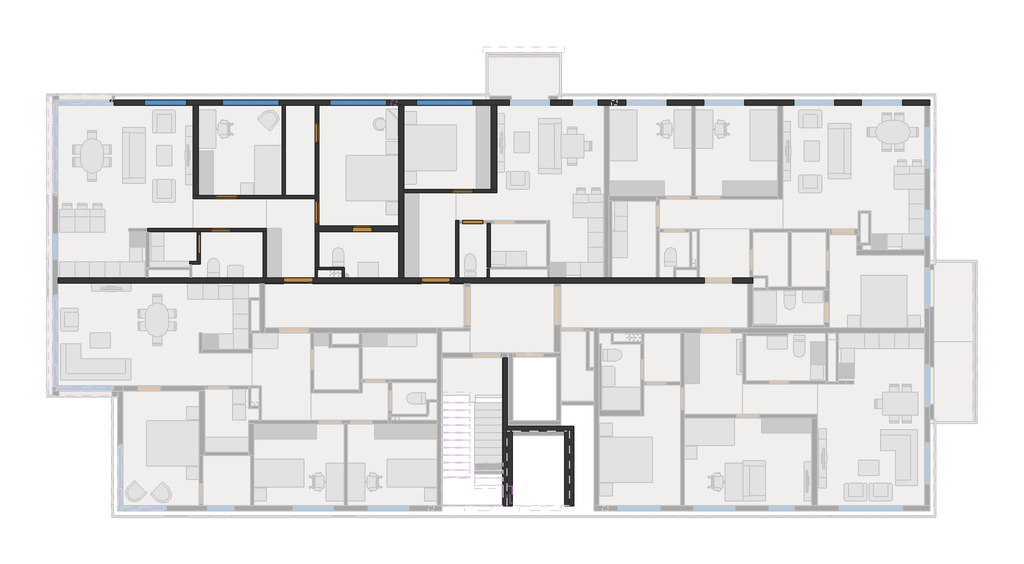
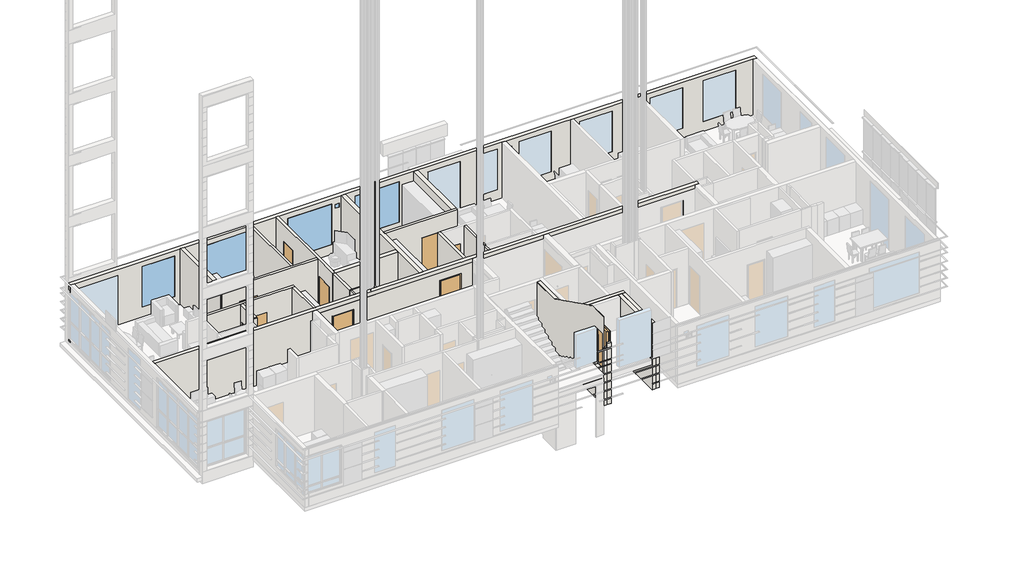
# One storey, part 7 of 14: 28 walls, 22 doors, 5 windows, 3 members, 2 plates.
"""IFC4 building model written with IfcOpenShell, lengths in millimetres."""

from ifc_helpers import new_model, si_unit, frame, origin, place, context, project, spatial, polyline, outline, extrude, faceted_brep, transform, mapped, element, save
from components import door_1f93f5fc, door_5594d525, door_3b0bb860, door_b8e875bd, door_c12ba408, door_87123fce, door_73803761, door_3a59e23d, door_1132ae02, door_6199b08a, door_fe42e1f0, door_2b45e898, door_e21d8083, rectangular_mullion_150x50_b8963a12, rectangular_mullion_150x50_a91aaa2b, rectangular_mullion_150x50_60451361, system_panel_b4577e30, system_panel_097f168f, window_786e5193, window_6c497e1b, default_0834c612

model = new_model("IFC4")

# Units and contexts
model_context = context("Model", 3, world=origin())
ifc_project = project(units=[si_unit("LENGTHUNIT", "METRE", prefix="MILLI")], contexts=[model_context])

# Site, building, storey
site = spatial("IfcSite", under=ifc_project)
building = spatial("IfcBuilding", under=site)
storey = spatial("IfcBuildingStorey", under=building, Name="03_+7,700_Ж", Elevation=4500.0)

# Doors
placement = place(None, origin())
door_shape = door_1f93f5fc(model_context)
element("IfcDoor", 1, ObjectType="Dr_Проем-Простой : ДВ", at=placement, inside=storey, context=model_context, shape_type="MappedRepresentation", body=[
    mapped(door_shape, transform((141870.3230165, 120599.9999987, 4500.0), x_axis=(-1.0, 0.0, 0.0), y_axis=(0.0, -1.0, 0.0), z_axis=(0.0, 0.0, 1.0))),
])
element("IfcDoor", 2, ObjectType="Dr_Проем-Простой : ДВ", at=placement, inside=storey, context=model_context, shape_type="MappedRepresentation", body=[
    mapped(door_shape, transform((136385.3230165, 120599.9999987, 4500.0), x_axis=(-1.0, 0.0, 0.0), y_axis=(0.0, -1.0, 0.0), z_axis=(0.0, 0.0, 1.0))),
])
door_2_shape = door_5594d525(model_context)
element("IfcDoor", 3, ObjectType="Dr_Проем-Простой : ДВ", at=placement, inside=storey, context=model_context, shape_type="MappedRepresentation", body=[
    mapped(door_2_shape, transform((144625.0000001, 112255.3230151, 6150.0), x_axis=(0.0, -1.0, 0.0), y_axis=(1.0, 0.0, 0.0), z_axis=(0.0, 0.0, 1.0))),
])
door_3_shape = door_3b0bb860(model_context)
element("IfcDoor", 4, ObjectType="Dr_Проем-Простой : ДВ", at=placement, inside=storey, context=model_context, shape_type="MappedRepresentation", body=[
    mapped(door_3_shape, transform((132874.6769838, 122612.4999987, 4500.0), x_axis=(1.0, 0.0, 0.0), y_axis=(0.0, 1.0, 0.0), z_axis=(0.0, 0.0, 1.0))),
])
element("IfcDoor", 5, ObjectType="Dr_Проем-Простой : ДВ", at=placement, inside=storey, context=model_context, shape_type="MappedRepresentation", body=[
    mapped(door_3_shape, transform((142944.1769838, 122937.4999987, 4500.0), x_axis=(1.0, 0.0, 0.0), y_axis=(0.0, 1.0, 0.0), z_axis=(0.0, 0.0, 1.0))),
])
door_4_shape = door_b8e875bd(model_context)
element("IfcDoor", 6, ObjectType="Dr_Проем-Простой : ДВ", at=placement, inside=storey, context=model_context, shape_type="MappedRepresentation", body=[
    mapped(door_4_shape, transform((133525.5824295, 123937.4999987, 4500.0), x_axis=(-1.0, 0.0, 0.0), y_axis=(0.0, -1.0, 0.0), z_axis=(0.0, 0.0, 1.0))),
])
element("IfcDoor", 7, ObjectType="Dr_Проем-Простой : ДВ", at=placement, inside=storey, context=model_context, shape_type="MappedRepresentation", body=[
    mapped(door_4_shape, transform((136927.5000001, 123530.323015, 4500.0), x_axis=(0.0, -1.0, 0.0), y_axis=(1.0, 0.0, 0.0), z_axis=(0.0, 0.0, 1.0))),
])
element("IfcDoor", 8, ObjectType="Dr_Проем-Простой : ДВ", at=placement, inside=storey, context=model_context, shape_type="MappedRepresentation", body=[
    mapped(door_4_shape, transform((142534.6769838, 124167.4999987, 4500.0), x_axis=(1.0, 0.0, 0.0), y_axis=(0.0, 1.0, 0.0), z_axis=(0.0, 0.0, 1.0))),
])
element("IfcDoor", 9, ObjectType="Dr_Проем-Простой : ДВ", at=placement, inside=storey, context=model_context, shape_type="MappedRepresentation", body=[
    mapped(door_3_shape, transform((136927.5000001, 126705.323015, 4500.0), x_axis=(0.0, -1.0, 0.0), y_axis=(1.0, 0.0, 0.0), z_axis=(0.0, 0.0, 1.0))),
])
door_5_shape = door_c12ba408(model_context)
element("IfcDoor", 10, ObjectType="Dr_Проем-Простой : ДВ", at=placement, inside=storey, context=model_context, shape_type="MappedRepresentation", body=[
    mapped(door_5_shape, transform((138519.6769838, 122669.9999987, 4500.0), x_axis=(1.0, 0.0, 0.0), y_axis=(0.0, 1.0, 0.0), z_axis=(0.0, 0.0, 1.0))),
])
element("IfcDoor", 11, ObjectType="Dr_Проем-Простой : ДВ", at=placement, inside=storey, context=model_context, shape_type="MappedRepresentation", body=[
    mapped(door_3_shape, transform((132202.5000001, 121844.6769824, 4500.0), x_axis=(0.0, 1.0, 0.0), y_axis=(-1.0, 0.0, 0.0), z_axis=(0.0, 0.0, 1.0))),
])
door_6_shape = door_87123fce(model_context)
element("IfcDoor", 12, ObjectType="Dr_Дверь_v2.1 : ДМ Мд1 Зв3 Оп Г Брг 21-9 Л", at=placement, inside=storey, context=model_context, shape_type="MappedRepresentation", body=[
    mapped(door_6_shape, transform((142615.0000001, 124167.4999987, 4500.0), x_axis=(1.0, 0.0, 0.0), y_axis=(0.0, 1.0, 0.0), z_axis=(0.0, 0.0, 1.0))),
])
door_7_shape = door_73803761(model_context)
element("IfcDoor", 13, ObjectType="Dr_Дверь_v2.1 : ДВПС Оп Г 24-11,5 Л EI30", at=placement, inside=storey, context=model_context, shape_type="MappedRepresentation", body=[
    mapped(door_7_shape, transform((141790.0000001, 120599.9999987, 4500.0), x_axis=(-1.0, 0.0, 0.0), y_axis=(0.0, -1.0, 0.0), z_axis=(0.0, 0.0, 1.0))),
])
door_8_shape = door_3a59e23d(model_context)
element("IfcDoor", 14, ObjectType="Dr_Дверь_v2.1 : ДВПС Оп Г 24-11,5 EI30", at=placement, inside=storey, context=model_context, shape_type="MappedRepresentation", body=[
    mapped(door_8_shape, transform((136305.0000001, 120599.9999987, 4500.0), x_axis=(-1.0, 0.0, 0.0), y_axis=(0.0, -1.0, 0.0), z_axis=(0.0, 0.0, 1.0))),
])
door_9_shape = door_1132ae02(model_context)
element("IfcDoor", 15, ObjectType="Dr_Дверь_v2.1 : ДС Мд1 Оп Г Брг 21-8", at=placement, inside=storey, context=model_context, shape_type="MappedRepresentation", body=[
    mapped(door_9_shape, transform((132955.0000001, 122612.4999987, 4500.0), x_axis=(1.0, 0.0, 0.0), y_axis=(0.0, 1.0, 0.0), z_axis=(0.0, 0.0, 1.0))),
])
door_10_shape = door_6199b08a(model_context)
element("IfcDoor", 16, ObjectType="Dr_Дверь_v2.1 : ДМ Мд1 Зв3 Оп Г Брг 21-9", at=placement, inside=storey, context=model_context, shape_type="MappedRepresentation", body=[
    mapped(door_10_shape, transform((133445.2594131, 123937.4999987, 4500.0), x_axis=(-1.0, 0.0, 0.0), y_axis=(0.0, -1.0, 0.0), z_axis=(0.0, 0.0, 1.0))),
])
element("IfcDoor", 17, ObjectType="Dr_Дверь_v2.1 : ДМ Мд1 Зв3 Оп Г Брг 21-9 Л", at=placement, inside=storey, context=model_context, shape_type="MappedRepresentation", body=[
    mapped(door_6_shape, transform((136927.5000001, 123449.9999987, 4500.0), x_axis=(0.0, -1.0, 0.0), y_axis=(1.0, 0.0, 0.0), z_axis=(0.0, 0.0, 1.0))),
])
element("IfcDoor", 18, ObjectType="Dr_Дверь_v2.1 : ДС Мд1 Оп Г Брг 21-8", at=placement, inside=storey, context=model_context, shape_type="MappedRepresentation", body=[
    mapped(door_9_shape, transform((143024.5000001, 122937.4999987, 4500.0), x_axis=(1.0, 0.0, 0.0), y_axis=(0.0, 1.0, 0.0), z_axis=(0.0, 0.0, 1.0))),
])
element("IfcDoor", 19, ObjectType="Dr_Дверь_v2.1 : ДМ Мд1 Оп Г Брг 21-8", at=placement, inside=storey, context=model_context, shape_type="MappedRepresentation", body=[
    mapped(door_9_shape, transform((136927.5000001, 126624.9999987, 4500.0), x_axis=(0.0, -1.0, 0.0), y_axis=(1.0, 0.0, 0.0), z_axis=(0.0, 0.0, 1.0))),
])
door_11_shape = door_fe42e1f0(model_context)
element("IfcDoor", 20, ObjectType="Dr_Дверь_v2.1 : ДНСГУТД Оп Прг 21-7 Тех EIS60", at=placement, inside=storey, context=model_context, shape_type="MappedRepresentation", body=[
    mapped(door_11_shape, transform((144625.0000001, 112174.9999987, 6150.0), x_axis=(0.0, -1.0, 0.0), y_axis=(1.0, 0.0, 0.0), z_axis=(0.0, 0.0, 1.0))),
])
door_12_shape = door_2b45e898(model_context)
element("IfcDoor", 21, ObjectType="Dr_Дверь_v2.1 : ДС Мд1 Оп Г Брг 21-8 Л", at=placement, inside=storey, context=model_context, shape_type="MappedRepresentation", body=[
    mapped(door_12_shape, transform((138600.0000001, 122669.9999987, 4500.0), x_axis=(1.0, 0.0, 0.0), y_axis=(0.0, 1.0, 0.0), z_axis=(0.0, 0.0, 1.0))),
])
door_13_shape = door_e21d8083(model_context)
element("IfcDoor", 22, ObjectType="Dr_Дверь_v2.1 : ДС Мд1 Оп Г Брг 21-8 Л", at=placement, inside=storey, context=model_context, shape_type="MappedRepresentation", body=[
    mapped(door_13_shape, transform((132202.5000001, 121924.9999987, 4500.0), x_axis=(0.0, 1.0, 0.0), y_axis=(-1.0, 0.0, 0.0), z_axis=(0.0, 0.0, 1.0))),
])

# Members
rectangular_mullion_150x50_shape = rectangular_mullion_150x50_b8963a12(model_context)
element("IfcMember", 23, ObjectType="Rectangular Mullion : 150x50", at=placement, inside=storey, context=model_context, shape_type="MappedRepresentation", body=[
    mapped(rectangular_mullion_150x50_shape, transform((128730.0000001, 127724.9999987, 7100.0), x_axis=(1.0, 0.0, 0.0), y_axis=(0.0, 1.0, 0.0), z_axis=(0.0, 0.0, 1.0))),
])
rectangular_mullion_150x50_2_shape = rectangular_mullion_150x50_a91aaa2b(model_context)
element("IfcMember", 24, ObjectType="Rectangular Mullion : 150x50", at=placement, inside=storey, context=model_context, shape_type="MappedRepresentation", body=[
    mapped(rectangular_mullion_150x50_2_shape, transform((128730.0000001, 127724.9999987, 5475.0), x_axis=(1.0, 0.0, 0.0), y_axis=(0.0, 1.0, 0.0), z_axis=(0.0, 0.0, 1.0))),
])
rectangular_mullion_150x50_3_shape = rectangular_mullion_150x50_60451361(model_context)
element("IfcMember", 25, ObjectType="Rectangular Mullion : 150x50", at=placement, inside=storey, context=model_context, shape_type="MappedRepresentation", body=[
    mapped(rectangular_mullion_150x50_3_shape, transform((128730.0000001, 127724.9999987, 4500.0), x_axis=(0.0, 0.0, -1.0), y_axis=(0.0, 1.0, 0.0), z_axis=(1.0, 0.0, 0.0))),
])

# Plates
system_panel_shape = system_panel_b4577e30(model_context)
element("IfcPlate", 26, ObjectType="System Panel : стекло_смещение_0", at=placement, inside=storey, context=model_context, shape_type="MappedRepresentation", body=[
    mapped(system_panel_shape, transform((128155.0000001, 127724.9999987, 4550.0), x_axis=(-1.0, 0.0, 0.0), y_axis=(0.0, -1.0, 0.0), z_axis=(0.0, 0.0, 1.0))),
])
system_panel_2_shape = system_panel_097f168f(model_context)
element("IfcPlate", 27, ObjectType="System Panel : стекло_смещение_0", at=placement, inside=storey, context=model_context, shape_type="MappedRepresentation", body=[
    mapped(system_panel_2_shape, transform((128155.0000001, 127724.9999987, 5500.0), x_axis=(-1.0, 0.0, 0.0), y_axis=(0.0, -1.0, 0.0), z_axis=(0.0, 0.0, 1.0))),
])

# Walls
element("IfcWall", 28, ObjectType="BW_SUB_GKL_INT_125_Тип П9.2-------", at=placement, inside=storey, context=model_context, shape_type="SweptSolid", body=[
    extrude(outline(polyline([(136990.0000001, 122564.9999987), (136990.0000001, 121129.9999987), (136865.0000001, 121129.9999987), (136865.0000001, 122564.9999987), (136990.0000001, 122564.9999987)])), frame((0.0, 0.0, 4480.0), z_axis=(0.0, 0.0, 1.0), x_axis=(1.0, 0.0, 0.0)), (0.0, 0.0, 1.0), 3020.0),
])
element("IfcWall", 29, ObjectType="BW_SUB_GKL_INT_125_Тип П9.1-------", at=placement, inside=storey, context=model_context, shape_type="Brep", body=[
    faceted_brep([(136865.0000001, 123874.9999987, 7500.0), (131980.0000001, 123874.9999987, 7500.0), (131980.0000001, 123874.9999987, 4480.0), (132870.2594131, 123874.9999987, 4480.0), (132870.2594131, 123874.9999987, 6600.0), (133770.2594131, 123874.9999987, 6600.0), (133770.2594131, 123874.9999987, 4480.0), (136865.0000001, 123874.9999987, 4480.0), (131980.0000001, 123999.9999987, 7500.0), (132190.0000001, 123999.9999987, 7500.0), (135540.0000001, 123999.9999987, 7500.0), (135665.0000001, 123999.9999987, 7500.0), (136865.0000001, 123999.9999987, 7500.0), (136865.0000001, 123999.9999987, 4480.0), (135665.0000001, 123999.9999987, 4480.0), (135540.0000001, 123999.9999987, 4480.0), (133770.2594131, 123999.9999987, 4480.0), (133770.2594131, 123999.9999987, 6600.0), (132870.2594131, 123999.9999987, 6600.0), (132870.2594131, 123999.9999987, 4480.0), (132190.0000001, 123999.9999987, 4480.0), (131980.0000001, 123999.9999987, 4480.0)], [[[0, 1, 2, 3, 4, 5, 6, 7]], [[8, 9, 10, 11, 12, 13, 14, 15, 16, 17, 18, 19, 20, 21]], [[2, 21, 20, 19, 3]], [[13, 7, 6, 16, 15, 14]], [[1, 0, 12, 11, 10, 9, 8]], [[5, 17, 16, 6]], [[18, 4, 3, 19]], [[17, 5, 4, 18]], [[2, 1, 8, 21]], [[0, 7, 13, 12]]]),
])
element("IfcWall", 30, ObjectType="BW_SUB_GKL_INT_210_Тип П10.2-------", at=placement, inside=storey, context=model_context, shape_type="SweptSolid", body=[
    extrude(outline(polyline([(7500.0, 140190.0000001), (7500.0, 136990.0000001), (4480.0, 136990.0000001), (4480.0, 138325.0000001), (6600.0, 138325.0000001), (6600.0, 139125.0000001), (4480.0, 139125.0000001), (4480.0, 140190.0000001), (7500.0, 140190.0000001)])), frame((0.0, 122564.9999987, 0.0), z_axis=(0.0, 1.0, 0.0), x_axis=(0.0, 0.0, 1.0)), (0.0, 0.0, 1.0), 210.0),
])
element("IfcWall", 31, ObjectType="BW_SUB_GKL_INT_125_Тип П9.2-------", at=placement, inside=storey, context=model_context, shape_type="SweptSolid", body=[
    extrude(outline(polyline([(134780.0000001, 120699.9999987), (134780.0000001, 122549.9999987), (134905.0000001, 122549.9999987), (134905.0000001, 120699.9999987), (134780.0000001, 120699.9999987)])), frame((0.0, 0.0, 4480.0), z_axis=(0.0, 0.0, 1.0), x_axis=(1.0, 0.0, 0.0)), (0.0, 0.0, 1.0), 3020.0),
])
element("IfcWall", 32, ObjectType="BW_SUB_GKL_INT_210_Тип П10.1-------", at=placement, inside=storey, context=model_context, shape_type="SweptSolid", body=[
    extrude(outline(polyline([(132190.0000001, 127599.9999987), (132190.0000001, 123999.9999987), (131980.0000001, 123999.9999987), (131980.0000001, 127599.9999987), (132190.0000001, 127599.9999987)])), frame((0.0, 0.0, 4480.0), z_axis=(0.0, 0.0, 1.0), x_axis=(1.0, 0.0, 0.0)), (0.0, 0.0, 1.0), 3020.0),
])
element("IfcWall", 33, ObjectType="BW_SUB_GKL_INT_125_Тип П9.3-------", at=placement, inside=storey, context=model_context, shape_type="SweptSolid", body=[
    extrude(outline(polyline([(121349.9999987, 7500.0), (122549.9999987, 7500.0), (122549.9999987, 4480.0), (122449.9999987, 4480.0), (122449.9999987, 6600.0), (121649.9999987, 6600.0), (121649.9999987, 4480.0), (121349.9999987, 4480.0), (121349.9999987, 7500.0)])), frame((132140.0000001, 0.0, 0.0), z_axis=(1.0, 0.0, 0.0), x_axis=(0.0, 1.0, 0.0)), (0.0, 0.0, 1.0), 125.0),
])
element("IfcWall", 34, ObjectType="BW_SUB_SKZ_INT_80_Тип П15-------", at=placement, inside=storey, context=model_context, shape_type="Brep", body=[
    faceted_brep([(138020.0000001, 120699.9999987, 4400.0), (138020.0000001, 121129.9999987, 4400.0), (138020.0000001, 121129.9999987, 7500.0), (138020.0000001, 120699.9999987, 7500.0), (137940.0000001, 120699.9999987, 4400.0), (137940.0000001, 120699.9999987, 7500.0), (137940.0000001, 121049.9999987, 7500.0), (137940.0000001, 121129.9999987, 7500.0), (137940.0000001, 121129.9999987, 4400.0), (137940.0000001, 121049.9999987, 4400.0)], [[[0, 1, 2, 3]], [[4, 5, 6, 7, 8, 9]], [[1, 0, 4, 9, 8]], [[3, 2, 7, 6, 5]], [[0, 3, 5, 4]], [[2, 1, 8, 7]]]),
])
element("IfcWall", 35, ObjectType="BW_SUB_SKZ_INT_80_Тип П15-------", at=placement, inside=storey, context=model_context, shape_type="Brep", body=[
    faceted_brep([(136865.0000001, 121049.9999987, 4400.0), (136945.0000001, 121049.9999987, 4400.0), (137940.0000001, 121049.9999987, 4400.0), (137940.0000001, 121049.9999987, 7500.0), (136945.0000001, 121049.9999987, 7500.0), (136865.0000001, 121049.9999987, 7500.0), (136865.0000001, 121129.9999987, 4400.0), (136865.0000001, 121129.9999987, 7500.0), (137940.0000001, 121129.9999987, 7500.0), (137940.0000001, 121129.9999987, 4400.0)], [[[0, 1, 2, 3, 4, 5]], [[6, 7, 8, 9]], [[2, 1, 0, 6, 9]], [[5, 4, 3, 8, 7]], [[0, 5, 7, 6]], [[3, 2, 9, 8]]]),
])
element("IfcWall", 36, ObjectType="BW_SUB_GKL_INT_125_Тип П9.1-------", at=placement, inside=storey, context=model_context, shape_type="SweptSolid", body=[
    extrude(outline(polyline([(135665.0000001, 127599.9999987), (135665.0000001, 123999.9999987), (135540.0000001, 123999.9999987), (135540.0000001, 127599.9999987), (135665.0000001, 127599.9999987)])), frame((0.0, 0.0, 4480.0), z_axis=(0.0, 0.0, 1.0), x_axis=(1.0, 0.0, 0.0)), (0.0, 0.0, 1.0), 3020.0),
])
element("IfcWall", 37, ObjectType="BW_SUB_SKZ_INT_80_Тип П15-------", at=placement, inside=storey, context=model_context, shape_type="Brep", body=[
    faceted_brep([(132265.0000001, 121349.9999987, 4400.0), (131855.0000001, 121349.9999987, 4400.0), (131855.0000001, 121349.9999987, 7500.0), (132265.0000001, 121349.9999987, 7500.0), (132265.0000001, 121269.9999987, 4400.0), (132265.0000001, 121269.9999987, 7500.0), (131935.0000001, 121269.9999987, 7500.0), (131855.0000001, 121269.9999987, 7500.0), (131855.0000001, 121269.9999987, 4400.0), (131935.0000001, 121269.9999987, 4400.0)], [[[0, 1, 2, 3]], [[4, 5, 6, 7, 8, 9]], [[1, 0, 4, 9, 8]], [[3, 2, 7, 6, 5]], [[0, 3, 5, 4]], [[2, 1, 8, 7]]]),
])
element("IfcWall", 38, ObjectType="BW_SUB_GKL_INT_125_Тип П9.1-------", at=placement, inside=storey, context=model_context, shape_type="Brep", body=[
    faceted_brep([(144100.0000001, 124104.9999987, 7500.0), (140390.0000001, 124104.9999987, 7500.0), (140390.0000001, 124104.9999987, 4480.0), (142290.0000001, 124104.9999987, 4480.0), (142290.0000001, 124104.9999987, 6600.0), (143190.0000001, 124104.9999987, 6600.0), (143190.0000001, 124104.9999987, 4480.0), (144100.0000001, 124104.9999987, 4480.0), (140390.0000001, 124229.9999987, 7500.0), (143890.0000001, 124229.9999987, 7500.0), (144100.0000001, 124229.9999987, 7500.0), (144100.0000001, 124229.9999987, 4480.0), (143890.0000001, 124229.9999987, 4480.0), (143190.0000001, 124229.9999987, 4480.0), (143190.0000001, 124229.9999987, 6600.0), (142290.0000001, 124229.9999987, 6600.0), (142290.0000001, 124229.9999987, 4480.0), (140390.0000001, 124229.9999987, 4480.0)], [[[0, 1, 2, 3, 4, 5, 6, 7]], [[8, 9, 10, 11, 12, 13, 14, 15, 16, 17]], [[2, 17, 16, 3]], [[11, 7, 6, 13, 12]], [[1, 0, 10, 9, 8]], [[2, 1, 8, 17]], [[15, 4, 3, 16]], [[5, 14, 13, 6]], [[4, 15, 14, 5]], [[0, 7, 11, 10]]]),
])
element("IfcWall", 39, ObjectType="BW_SUB_GKL_INT_210_Тип П10.1-------", at=placement, inside=storey, context=model_context, shape_type="SweptSolid", body=[
    extrude(outline(polyline([(143890.0000001, 124229.9999987), (143890.0000001, 127599.9999987), (144100.0000001, 127599.9999987), (144100.0000001, 124229.9999987), (143890.0000001, 124229.9999987)])), frame((0.0, 0.0, 4480.0), z_axis=(0.0, 0.0, 1.0), x_axis=(1.0, 0.0, 0.0)), (0.0, 0.0, 1.0), 3020.0),
])
element("IfcWall", 40, ObjectType="BW_SUB_GKL_INT_125_Тип П9.2-------", at=placement, inside=storey, context=model_context, shape_type="Brep", body=[
    faceted_brep([(142465.0000001, 122999.9999987, 4480.0), (142465.0000001, 120699.9999987, 4480.0), (142465.0000001, 120699.9999987, 7500.0), (142465.0000001, 122999.9999987, 7500.0), (142590.0000001, 122999.9999987, 4480.0), (142590.0000001, 122999.9999987, 7500.0), (142590.0000001, 122874.9999987, 7500.0), (142590.0000001, 120699.9999987, 7500.0), (142590.0000001, 120699.9999987, 4480.0), (142590.0000001, 122874.9999987, 4480.0)], [[[0, 1, 2, 3]], [[4, 5, 6, 7, 8, 9]], [[1, 0, 4, 9, 8]], [[2, 1, 8, 7]], [[3, 2, 7, 6, 5]], [[0, 3, 5, 4]]]),
])
element("IfcWall", 41, ObjectType="BW_SUB_GKL_INT_125_Тип П9.3-------", at=placement, inside=storey, context=model_context, shape_type="SweptSolid", body=[
    extrude(outline(polyline([(143840.0000001, 122874.9999987), (143840.0000001, 121139.9999987), (143715.0000001, 121139.9999987), (143715.0000001, 122874.9999987), (143840.0000001, 122874.9999987)])), frame((0.0, 0.0, 4480.0), z_axis=(0.0, 0.0, 1.0), x_axis=(1.0, 0.0, 0.0)), (0.0, 0.0, 1.0), 3020.0),
])
element("IfcWall", 42, ObjectType="BW_THR_EXT_180+10=190_Тип С4-------", at=placement, inside=storey, context=model_context, shape_type="Brep", body=[
    faceted_brep([(147000.0000001, 111599.9999987, 4400.0), (147000.0000001, 114599.9999987, 4400.0), (147000.0000001, 114599.9999987, 7700.0), (147000.0000001, 111599.9999987, 7700.0), (146810.0000001, 111599.9999987, 4400.0), (146810.0000001, 111599.9999987, 7700.0), (146810.0000001, 114409.9999987, 7700.0), (146810.0000001, 114599.9999987, 7700.0), (146810.0000001, 114599.9999987, 4400.0), (146810.0000001, 114409.9999987, 4400.0)], [[[0, 1, 2, 3]], [[4, 5, 6, 7, 8, 9]], [[1, 0, 4, 9, 8]], [[3, 2, 7, 6, 5]], [[0, 3, 5, 4]], [[2, 1, 8, 7]]]),
])
element("IfcWall", 43, ObjectType="BW_THR_EXT_180+10=190_Тип С4-------", at=placement, inside=storey, context=model_context, shape_type="Brep", body=[
    faceted_brep([(144720.0000001, 111599.9999987, 4400.0), (144720.0000001, 114409.9999987, 4400.0), (144720.0000001, 114599.9999987, 4400.0), (144720.0000001, 114599.9999987, 5750.0), (144720.0000001, 114599.9999987, 6000.0), (144720.0000001, 114599.9999987, 7700.0), (144720.0000001, 114409.9999987, 7700.0), (144720.0000001, 112399.9999987, 7700.0), (144720.0000001, 112399.9999987, 6150.0), (144720.0000001, 111699.9999987, 6150.0), (144720.0000001, 111699.9999987, 7700.0), (144720.0000001, 111599.9999987, 7700.0), (144530.0000001, 114599.9999987, 4400.0), (144530.0000001, 111599.9999987, 4400.0), (144530.0000001, 111599.9999987, 7500.0), (144530.0000001, 111599.9999987, 7700.0), (144530.0000001, 111699.9999987, 7700.0), (144530.0000001, 111699.9999987, 7500.0), (144530.0000001, 111699.9999987, 6150.0), (144530.0000001, 112399.9999987, 6150.0), (144530.0000001, 112399.9999987, 7500.0), (144530.0000001, 112399.9999987, 7700.0), (144530.0000001, 114599.9999987, 7700.0)], [[[0, 1, 2, 3, 4, 5, 6, 7, 8, 9, 10, 11]], [[12, 13, 14, 15, 16, 17, 18, 19, 20, 21, 22]], [[2, 1, 0, 13, 12]], [[15, 11, 10, 16]], [[5, 22, 21, 7, 6]], [[0, 11, 15, 14, 13]], [[19, 8, 7, 21, 20]], [[8, 19, 18, 9]], [[9, 18, 17, 16, 10]], [[5, 4, 3, 2, 12, 22]]]),
])
element("IfcWall", 44, ObjectType="BW_SUB_SKZ_INT_80_Тип П15-------", at=placement, inside=storey, context=model_context, shape_type="SweptSolid", body=[
    extrude(outline(polyline([(136945.0000001, 121049.9999987), (136945.0000001, 120699.9999987), (136865.0000001, 120699.9999987), (136865.0000001, 121049.9999987), (136945.0000001, 121049.9999987)])), frame((0.0, 0.0, 4400.0), z_axis=(0.0, 0.0, 1.0), x_axis=(1.0, 0.0, 0.0)), (0.0, 0.0, 1.0), 3100.0),
])
element("IfcWall", 45, ObjectType="BW_FN2_10_внутр отделка МОП-------", at=placement, inside=storey, context=model_context, shape_type="Brep", body=[
    faceted_brep([(134840.0000001, 120499.9999987, 7300.0), (142800.0000002, 120499.9999987, 7300.0), (142800.0000002, 120499.9999987, 4500.0), (142240.0000001, 120499.9999987, 4500.0), (142240.0000001, 120499.9999987, 6900.0), (141090.0000001, 120499.9999987, 6900.0), (141090.0000001, 120499.9999987, 4500.0), (136755.0000001, 120499.9999987, 4500.0), (136755.0000001, 120499.9999987, 6900.0), (135605.0000001, 120499.9999987, 6900.0), (135605.0000001, 120499.9999987, 4500.0), (134840.0000001, 120499.9999987, 4500.0), (142800.0000002, 120489.9999987, 7300.0), (142790.0000002, 120489.9999987, 7300.0), (134850.0000001, 120489.9999987, 7300.0), (134840.0000001, 120489.9999987, 7300.0), (134840.0000001, 120489.9999987, 4500.0), (134850.0000001, 120489.9999987, 4500.0), (135605.0000001, 120489.9999987, 4500.0), (135605.0000001, 120489.9999987, 6900.0), (136755.0000001, 120489.9999987, 6900.0), (136755.0000001, 120489.9999987, 4500.0), (141090.0000001, 120489.9999987, 4500.0), (141090.0000001, 120489.9999987, 6900.0), (142240.0000001, 120489.9999987, 6900.0), (142240.0000001, 120489.9999987, 4500.0), (142790.0000002, 120489.9999987, 4500.0), (142800.0000002, 120489.9999987, 4500.0)], [[[0, 1, 2, 3, 4, 5, 6, 7, 8, 9, 10, 11]], [[12, 13, 14, 15, 16, 17, 18, 19, 20, 21, 22, 23, 24, 25, 26, 27]], [[16, 11, 10, 18, 17]], [[2, 27, 26, 25, 3]], [[6, 22, 21, 7]], [[1, 0, 15, 14, 13, 12]], [[0, 11, 16, 15]], [[2, 1, 12, 27]], [[24, 4, 3, 25]], [[5, 23, 22, 6]], [[4, 24, 23, 5]], [[20, 8, 7, 21]], [[9, 19, 18, 10]], [[8, 20, 19, 9]]]),
])
element("IfcWall", 46, ObjectType="BW_FN2_10_внутр отделка ЛК-------", at=placement, inside=storey, context=model_context, shape_type="Brep", body=[
    faceted_brep([(144340.0000001, 117509.9999987, 4500.0), (144340.0000001, 115749.9999988, 4500.0), (144340.0000001, 115749.9999988, 4650.0), (144340.0000001, 115449.9999988, 4650.0), (144340.0000001, 115449.9999988, 4800.0), (144340.0000001, 115149.9999988, 4800.0), (144340.0000001, 115149.9999988, 4950.0), (144340.0000001, 114849.9999988, 4950.0), (144340.0000001, 114849.9999988, 5100.0), (144340.0000001, 114549.9999988, 5100.0), (144340.0000001, 114549.9999988, 5250.0), (144340.0000001, 114249.9999988, 5250.0), (144340.0000001, 114249.9999988, 5400.0), (144340.0000001, 113949.9999988, 5400.0), (144340.0000001, 113949.9999988, 5550.0), (144340.0000001, 113649.9999988, 5550.0), (144340.0000001, 113649.9999988, 5700.0), (144340.0000001, 113349.9999988, 5700.0), (144340.0000001, 113349.9999988, 5850.0), (144340.0000001, 113049.9999988, 5850.0), (144340.0000001, 113049.9999988, 6000.0), (144340.0000001, 112749.9999988, 6000.0), (144340.0000001, 112749.9999988, 6150.0), (144340.0000001, 112399.9999987, 6150.0), (144340.0000001, 112399.9999987, 8250.0), (144340.0000001, 111699.9999987, 8250.0), (144340.0000001, 111699.9999987, 6150.0), (144340.0000001, 111609.9999987, 6150.0), (144340.0000001, 111609.9999987, 9200.0), (144340.0000001, 112614.5898023, 9200.0), (144340.0000001, 115939.9999989, 7537.2949017), (144340.0000001, 115939.9999989, 7500.0), (144340.0000001, 117509.9999987, 7500.0), (144350.0000001, 115749.9999988, 4500.0), (144350.0000001, 117509.9999987, 4500.0), (144350.0000001, 117509.9999987, 7500.0), (144350.0000001, 115939.9999989, 7500.0), (144350.0000001, 115939.9999989, 7537.2949017), (144350.0000001, 112614.5898023, 9200.0), (144350.0000001, 111609.9999987, 9200.0), (144350.0000001, 111609.9999987, 6150.0), (144350.0000001, 111699.9999987, 6150.0), (144350.0000001, 111699.9999987, 7500.0), (144350.0000001, 111699.9999987, 8250.0), (144350.0000001, 112399.9999987, 8250.0), (144350.0000001, 112399.9999987, 7500.0), (144350.0000001, 112399.9999987, 6150.0), (144350.0000001, 112749.9999988, 6150.0), (144350.0000001, 112749.9999988, 6000.0), (144350.0000001, 113049.9999988, 6000.0), (144350.0000001, 113049.9999988, 5850.0), (144350.0000001, 113349.9999988, 5850.0), (144350.0000001, 113349.9999988, 5700.0), (144350.0000001, 113649.9999988, 5700.0), (144350.0000001, 113649.9999988, 5550.0), (144350.0000001, 113949.9999988, 5550.0), (144350.0000001, 113949.9999988, 5400.0), (144350.0000001, 114249.9999988, 5400.0), (144350.0000001, 114249.9999988, 5250.0), (144350.0000001, 114549.9999988, 5250.0), (144350.0000001, 114549.9999988, 5100.0), (144350.0000001, 114849.9999988, 5100.0), (144350.0000001, 114849.9999988, 4950.0), (144350.0000001, 115149.9999988, 4950.0), (144350.0000001, 115149.9999988, 4800.0), (144350.0000001, 115449.9999988, 4800.0), (144350.0000001, 115449.9999988, 4650.0), (144350.0000001, 115749.9999988, 4650.0)], [[[0, 1, 2, 3, 4, 5, 6, 7, 8, 9, 10, 11, 12, 13, 14, 15, 16, 17, 18, 19, 20, 21, 22, 23, 24, 25, 26, 27, 28, 29, 30, 31, 32]], [[33, 34, 35, 36, 37, 38, 39, 40, 41, 42, 43, 44, 45, 46, 47, 48, 49, 50, 51, 52, 53, 54, 55, 56, 57, 58, 59, 60, 61, 62, 63, 64, 65, 66, 67]], [[1, 0, 34, 33]], [[32, 31, 36, 35]], [[2, 1, 33, 67]], [[3, 2, 67, 66]], [[4, 3, 66, 65]], [[5, 4, 65, 64]], [[6, 5, 64, 63]], [[7, 6, 63, 62]], [[8, 7, 62, 61]], [[9, 8, 61, 60]], [[10, 9, 60, 59]], [[11, 10, 59, 58]], [[12, 11, 58, 57]], [[13, 12, 57, 56]], [[14, 13, 56, 55]], [[15, 14, 55, 54]], [[16, 15, 54, 53]], [[17, 16, 53, 52]], [[18, 17, 52, 51]], [[19, 18, 51, 50]], [[20, 19, 50, 49]], [[21, 20, 49, 48]], [[22, 21, 48, 47]], [[22, 47, 46, 23]], [[40, 27, 26, 41]], [[29, 28, 39, 38]], [[30, 29, 38, 37]], [[31, 30, 37, 36]], [[0, 32, 35, 34]], [[28, 27, 40, 39]], [[44, 24, 23, 46, 45]], [[25, 43, 42, 41, 26]], [[24, 44, 43, 25]]]),
])
element("IfcWall", 47, ObjectType="BW_SUB_SKZ_INT_80_Тип П15-------", at=placement, inside=storey, context=model_context, shape_type="SweptSolid", body=[
    extrude(outline(polyline([(143795.0000001, 121059.9999987), (143795.0000001, 120699.9999987), (143715.0000001, 120699.9999987), (143715.0000001, 121059.9999987), (143795.0000001, 121059.9999987)])), frame((0.0, 0.0, 4400.0), z_axis=(0.0, 0.0, 1.0), x_axis=(1.0, 0.0, 0.0)), (0.0, 0.0, 1.0), 3100.0),
])
element("IfcWall", 48, ObjectType="BW_SUB_GKL_INT_125_Тип П9.2-------", at=placement, inside=storey, context=model_context, shape_type="Brep", body=[
    faceted_brep([(134905.0000001, 122549.9999987, 7500.0), (134780.0000001, 122549.9999987, 7500.0), (132265.0000001, 122549.9999987, 7500.0), (132140.0000001, 122549.9999987, 7500.0), (130225.0000001, 122549.9999987, 7500.0), (130140.0000001, 122549.9999987, 7500.0), (130140.0000001, 122549.9999987, 4480.0), (130225.0000001, 122549.9999987, 4480.0), (132140.0000001, 122549.9999987, 4480.0), (132265.0000001, 122549.9999987, 4480.0), (132680.0000001, 122549.9999987, 4480.0), (132680.0000001, 122549.9999987, 6600.0), (133480.0000001, 122549.9999987, 6600.0), (133480.0000001, 122549.9999987, 4480.0), (134780.0000001, 122549.9999987, 4480.0), (134905.0000001, 122549.9999987, 4480.0), (130140.0000001, 122674.9999987, 7500.0), (134905.0000001, 122674.9999987, 7500.0), (134905.0000001, 122674.9999987, 4480.0), (133480.0000001, 122674.9999987, 4480.0), (133480.0000001, 122674.9999987, 6600.0), (132680.0000001, 122674.9999987, 6600.0), (132680.0000001, 122674.9999987, 4480.0), (130140.0000001, 122674.9999987, 4480.0)], [[[0, 1, 2, 3, 4, 5, 6, 7, 8, 9, 10, 11, 12, 13, 14, 15]], [[16, 17, 18, 19, 20, 21, 22, 23]], [[6, 23, 22, 10, 9, 8, 7]], [[18, 15, 14, 13, 19]], [[5, 4, 3, 2, 1, 0, 17, 16]], [[6, 5, 16, 23]], [[0, 15, 18, 17]], [[21, 11, 10, 22]], [[12, 20, 19, 13]], [[11, 21, 20, 12]]]),
])
element("IfcWall", 49, ObjectType="BW_SUB_GKL_INT_125_Тип П9.1-------", at=placement, inside=storey, context=model_context, shape_type="Brep", body=[
    faceted_brep([(136990.0000001, 127599.9999987, 4480.0), (136990.0000001, 127599.9999987, 7500.0), (136990.0000001, 122774.9999987, 7500.0), (136990.0000001, 122564.9999987, 7500.0), (136990.0000001, 122564.9999987, 4480.0), (136990.0000001, 122774.9999987, 4480.0), (136990.0000001, 122874.9999987, 4480.0), (136990.0000001, 122874.9999987, 6600.0), (136990.0000001, 123774.9999987, 6600.0), (136990.0000001, 123774.9999987, 4480.0), (136990.0000001, 126099.9999987, 4480.0), (136990.0000001, 126099.9999987, 6600.0), (136990.0000001, 126899.9999987, 6600.0), (136990.0000001, 126899.9999987, 4480.0), (136865.0000001, 127599.9999987, 7500.0), (136865.0000001, 127599.9999987, 4480.0), (136865.0000001, 126899.9999987, 4480.0), (136865.0000001, 126899.9999987, 6600.0), (136865.0000001, 126099.9999987, 6600.0), (136865.0000001, 126099.9999987, 4480.0), (136865.0000001, 123999.9999987, 4480.0), (136865.0000001, 123874.9999987, 4480.0), (136865.0000001, 123774.9999987, 4480.0), (136865.0000001, 123774.9999987, 6600.0), (136865.0000001, 122874.9999987, 6600.0), (136865.0000001, 122874.9999987, 4480.0), (136865.0000001, 122564.9999987, 4480.0), (136865.0000001, 122564.9999987, 7500.0), (136865.0000001, 123874.9999987, 7500.0), (136865.0000001, 123999.9999987, 7500.0)], [[[0, 1, 2, 3, 4, 5, 6, 7, 8, 9, 10, 11, 12, 13]], [[14, 15, 16, 17, 18, 19, 20, 21, 22, 23, 24, 25, 26, 27, 28, 29]], [[15, 0, 13, 16]], [[9, 22, 21, 20, 19, 10]], [[6, 5, 4, 26, 25]], [[1, 0, 15, 14]], [[3, 2, 1, 14, 29, 28, 27]], [[8, 23, 22, 9]], [[24, 7, 6, 25]], [[23, 8, 7, 24]], [[12, 17, 16, 13]], [[18, 11, 10, 19]], [[17, 12, 11, 18]], [[4, 3, 27, 26]]]),
])
element("IfcWall", 50, ObjectType="BW_STR_CIP_UP_EXT_200-------", at=placement, inside=storey, context=model_context, shape_type="Brep", body=[
    faceted_brep([(161380.0000001, 127599.9999987, 7500.0), (161180.0000001, 127599.9999987, 7500.0), (148590.0000001, 127599.9999987, 7500.0), (148390.0000001, 127599.9999987, 7500.0), (140390.0000001, 127599.9999987, 7500.0), (140190.0000001, 127599.9999987, 7500.0), (126580.0000001, 127599.9999987, 7500.0), (126380.0000001, 127599.9999987, 7500.0), (126380.0000001, 127599.9999987, 7110.0), (126430.0000001, 127599.9999987, 7110.0), (126430.0000001, 127599.9999987, 7160.0), (126580.0000001, 127599.9999987, 7160.0), (128810.0000001, 127599.9999987, 7160.0), (128810.0000001, 127599.9999987, 4440.0), (126580.0000001, 127599.9999987, 4440.0), (126430.0000001, 127599.9999987, 4440.0), (126430.0000001, 127599.9999987, 4500.0), (126380.0000001, 127599.9999987, 4500.0), (126380.0000001, 127599.9999987, 4400.0), (126580.0000001, 127599.9999987, 4400.0), (140190.0000001, 127599.9999987, 4400.0), (140390.0000001, 127599.9999987, 4400.0), (144610.0000001, 127599.9999987, 4400.0), (144610.0000001, 127599.9999987, 7220.0), (146250.0000001, 127599.9999987, 7220.0), (146250.0000001, 127599.9999987, 4400.0), (148390.0000001, 127599.9999987, 4400.0), (148590.0000001, 127599.9999987, 4400.0), (161180.0000001, 127599.9999987, 4400.0), (161380.0000001, 127599.9999987, 4400.0), (158660.0000001, 127599.9999987, 5030.0), (158660.0000001, 127599.9999987, 7220.0), (160300.0000001, 127599.9999987, 7220.0), (160300.0000001, 127599.9999987, 5030.0), (130060.0000001, 127599.9999987, 5030.0), (130060.0000001, 127599.9999987, 7220.0), (131700.0000001, 127599.9999987, 7220.0), (131700.0000001, 127599.9999987, 5030.0), (133160.0000001, 127599.9999987, 5030.0), (133160.0000001, 127599.9999987, 7220.0), (135400.0000001, 127599.9999987, 7220.0), (135400.0000001, 127599.9999987, 5030.0), (140910.0000001, 127599.9999987, 5030.0), (140910.0000001, 127599.9999987, 7220.0), (143150.0000001, 127599.9999987, 7220.0), (143150.0000001, 127599.9999987, 5030.0), (137460.0000001, 127599.9999987, 5030.0), (137460.0000001, 127599.9999987, 7220.0), (139700.0000001, 127599.9999987, 7220.0), (139700.0000001, 127599.9999987, 5030.0), (149260.0000001, 127599.9999987, 5030.0), (149260.0000001, 127599.9999987, 7220.0), (150900.0000001, 127599.9999987, 7220.0), (150900.0000001, 127599.9999987, 5030.0), (152360.0000001, 127599.9999987, 5030.0), (152360.0000001, 127599.9999987, 7220.0), (154000.0000001, 127599.9999987, 7220.0), (154000.0000001, 127599.9999987, 5030.0), (155960.0000001, 127599.9999987, 5030.0), (155960.0000001, 127599.9999987, 7220.0), (157600.0000001, 127599.9999987, 7220.0), (157600.0000001, 127599.9999987, 5030.0), (147110.0000002, 127599.9999987, 5030.0), (147110.0000002, 127599.9999987, 7220.0), (148150.0000002, 127599.9999987, 7220.0), (148150.0000002, 127599.9999987, 5030.0), (139890.0000001, 127599.9999987, 7119.0), (140090.0000001, 127599.9999987, 7119.0), (140090.0000001, 127599.9999987, 6919.0), (139890.0000001, 127599.9999987, 6919.0), (148690.0000001, 127599.9999987, 7119.0), (148890.0000001, 127599.9999987, 7119.0), (148890.0000001, 127599.9999987, 6919.0), (148690.0000001, 127599.9999987, 6919.0), (126380.0000001, 127799.9999987, 7500.0), (143829.5000001, 127799.9999987, 7500.0), (146529.5000001, 127799.9999987, 7500.0), (161380.0000001, 127799.9999987, 7500.0), (161380.0000001, 127799.9999987, 4400.0), (146529.5000001, 127799.9999987, 4400.0), (146250.0000001, 127799.9999987, 4400.0), (146250.0000001, 127799.9999987, 7220.0), (144610.0000001, 127799.9999987, 7220.0), (144610.0000001, 127799.9999987, 4400.0), (143829.5000001, 127799.9999987, 4400.0), (126380.0000001, 127799.9999987, 4400.0), (158660.0000001, 127799.9999987, 7220.0), (158660.0000001, 127799.9999987, 5030.0), (160300.0000001, 127799.9999987, 5030.0), (160300.0000001, 127799.9999987, 7220.0), (130060.0000001, 127799.9999987, 7220.0), (130060.0000001, 127799.9999987, 5030.0), (131700.0000001, 127799.9999987, 5030.0), (131700.0000001, 127799.9999987, 7220.0), (133160.0000001, 127799.9999987, 7220.0), (133160.0000001, 127799.9999987, 5030.0), (135400.0000001, 127799.9999987, 5030.0), (135400.0000001, 127799.9999987, 7220.0), (140910.0000001, 127799.9999987, 7220.0), (140910.0000001, 127799.9999987, 5030.0), (143150.0000001, 127799.9999987, 5030.0), (143150.0000001, 127799.9999987, 7220.0), (137460.0000001, 127799.9999987, 7220.0), (137460.0000001, 127799.9999987, 5030.0), (139700.0000001, 127799.9999987, 5030.0), (139700.0000001, 127799.9999987, 7220.0), (149260.0000001, 127799.9999987, 7220.0), (149260.0000001, 127799.9999987, 5030.0), (150900.0000001, 127799.9999987, 5030.0), (150900.0000001, 127799.9999987, 7220.0), (152360.0000001, 127799.9999987, 7220.0), (152360.0000001, 127799.9999987, 5030.0), (154000.0000001, 127799.9999987, 5030.0), (154000.0000001, 127799.9999987, 7220.0), (155960.0000001, 127799.9999987, 7220.0), (155960.0000001, 127799.9999987, 5030.0), (157600.0000001, 127799.9999987, 5030.0), (157600.0000001, 127799.9999987, 7220.0), (147110.0000002, 127799.9999987, 7220.0), (147110.0000002, 127799.9999987, 5030.0), (148150.0000002, 127799.9999987, 5030.0), (148150.0000002, 127799.9999987, 7220.0), (139890.0000001, 127799.9999987, 7119.0), (139890.0000001, 127799.9999987, 6919.0), (140090.0000001, 127799.9999987, 6919.0), (140090.0000001, 127799.9999987, 7119.0), (148690.0000001, 127799.9999987, 7119.0), (148690.0000001, 127799.9999987, 6919.0), (148890.0000001, 127799.9999987, 6919.0), (148890.0000001, 127799.9999987, 7119.0), (128760.0000001, 127799.9999987, 4500.0), (128760.0000001, 127799.9999987, 7110.0), (127030.0000001, 127799.9999987, 7110.0), (127030.0000001, 127799.9999987, 7160.0), (126430.0000001, 127799.9999987, 7160.0), (126430.0000001, 127799.9999987, 4440.0), (127030.0000001, 127799.9999987, 4440.0), (127030.0000001, 127799.9999987, 4500.0), (126380.0000001, 127759.9999987, 4500.0), (126380.0000001, 127759.9999987, 7110.0), (128810.0000001, 127749.9999987, 4440.0), (128810.0000001, 127749.9999987, 7160.0), (127030.0000001, 127749.9999987, 7160.0), (127030.0000001, 127749.9999987, 7110.0), (128760.0000001, 127749.9999987, 7110.0), (128760.0000001, 127749.9999987, 4500.0), (127030.0000001, 127749.9999987, 4500.0), (127030.0000001, 127749.9999987, 4440.0), (126430.0000001, 127759.9999987, 7110.0), (126430.0000001, 127759.9999987, 4500.0)], [[[0, 1, 2, 3, 4, 5, 6, 7, 8, 9, 10, 11, 12, 13, 14, 15, 16, 17, 18, 19, 20, 21, 22, 23, 24, 25, 26, 27, 28, 29], [30, 31, 32, 33], [34, 35, 36, 37], [38, 39, 40, 41], [42, 43, 44, 45], [46, 47, 48, 49], [50, 51, 52, 53], [54, 55, 56, 57], [58, 59, 60, 61], [62, 63, 64, 65], [66, 67, 68, 69], [70, 71, 72, 73]], [[74, 75, 76, 77, 78, 79, 80, 81, 82, 83, 84, 85], [86, 87, 88, 89], [90, 91, 92, 93], [94, 95, 96, 97], [98, 99, 100, 101], [102, 103, 104, 105], [106, 107, 108, 109], [110, 111, 112, 113], [114, 115, 116, 117], [118, 119, 120, 121], [122, 123, 124, 125], [126, 127, 128, 129], [130, 131, 132, 133, 134, 135, 136, 137]], [[78, 29, 28, 27, 26, 25, 80, 79]], [[18, 85, 84, 83, 22, 21, 20, 19]], [[7, 6, 5, 4, 3, 2, 1, 0, 77, 76, 75, 74]], [[0, 29, 78, 77]], [[7, 74, 85, 18, 17, 138, 139, 8]], [[86, 31, 30, 87]], [[87, 30, 33, 88]], [[88, 33, 32, 89]], [[31, 86, 89, 32]], [[90, 35, 34, 91]], [[91, 34, 37, 92]], [[92, 37, 36, 93]], [[35, 90, 93, 36]], [[94, 39, 38, 95]], [[95, 38, 41, 96]], [[96, 41, 40, 97]], [[39, 94, 97, 40]], [[98, 43, 42, 99]], [[99, 42, 45, 100]], [[100, 45, 44, 101]], [[43, 98, 101, 44]], [[102, 47, 46, 103]], [[103, 46, 49, 104]], [[104, 49, 48, 105]], [[47, 102, 105, 48]], [[106, 51, 50, 107]], [[107, 50, 53, 108]], [[108, 53, 52, 109]], [[51, 106, 109, 52]], [[110, 55, 54, 111]], [[111, 54, 57, 112]], [[112, 57, 56, 113]], [[55, 110, 113, 56]], [[114, 59, 58, 115]], [[115, 58, 61, 116]], [[116, 61, 60, 117]], [[59, 114, 117, 60]], [[118, 63, 62, 119]], [[119, 62, 65, 120]], [[120, 65, 64, 121]], [[63, 118, 121, 64]], [[123, 122, 66, 69]], [[124, 123, 69, 68]], [[125, 124, 68, 67]], [[122, 125, 67, 66]], [[127, 126, 70, 73]], [[128, 127, 73, 72]], [[129, 128, 72, 71]], [[126, 129, 71, 70]], [[82, 23, 22, 83]], [[24, 81, 80, 25]], [[23, 82, 81, 24]], [[140, 141, 142, 143, 144, 145, 146, 147]], [[141, 140, 13, 12]], [[13, 140, 147, 136, 135, 15, 14]], [[141, 12, 11, 10, 134, 133, 142]], [[131, 144, 143, 132]], [[145, 144, 131, 130]], [[145, 130, 137, 146]], [[136, 147, 146, 137]], [[142, 133, 132, 143]], [[148, 149, 16, 15, 135, 134, 10, 9]], [[148, 9, 8, 139]], [[149, 148, 139, 138]], [[16, 149, 138, 17]]]),
])
element("IfcWall", 51, ObjectType="BW_STR_CIP_UP_INT_180-------", at=placement, inside=storey, context=model_context, shape_type="Brep", body=[
    faceted_brep([(144530.0000001, 114599.9999987, 4400.0), (147000.0000001, 114599.9999987, 4400.0), (147180.0000001, 114599.9999987, 4400.0), (147180.0000001, 114599.9999987, 7700.0), (147000.0000001, 114599.9999987, 7700.0), (144530.0000001, 114599.9999987, 7700.0), (144530.0000001, 114779.9999987, 4400.0), (144530.0000001, 114779.9999987, 7700.0), (147180.0000001, 114779.9999987, 7700.0), (147180.0000001, 114779.9999987, 4400.0)], [[[0, 1, 2, 3, 4, 5]], [[6, 7, 8, 9]], [[2, 1, 0, 6, 9]], [[3, 2, 9, 8]], [[5, 4, 3, 8, 7]], [[0, 5, 7, 6]]]),
])
element("IfcWall", 52, ObjectType="BW_STR_CIP_UP_INT_180-------", at=placement, inside=storey, context=model_context, shape_type="SweptSolid", body=[
    extrude(outline(polyline([(147000.0000001, 111599.9999987), (147000.0000001, 114599.9999987), (147180.0000001, 114599.9999987), (147180.0000001, 111599.9999987), (147000.0000001, 111599.9999987)])), frame((0.0, 0.0, 4400.0), z_axis=(0.0, 0.0, 1.0), x_axis=(1.0, 0.0, 0.0)), (0.0, 0.0, 1.0), 3300.0),
])
element("IfcWall", 53, ObjectType="BW_STR_CIP_UP_INT_180-------", at=placement, inside=storey, context=model_context, shape_type="Brep", body=[
    faceted_brep([(144350.0000001, 112399.9999987, 7500.0), (144350.0000001, 115939.9999989, 7500.0), (144350.0000001, 117509.9999987, 7500.0), (144350.0000001, 117519.9999987, 7500.0), (144350.0000001, 117519.9999987, 4500.0), (144350.0000001, 117519.9999987, 4400.0), (144350.0000001, 115939.9999989, 4400.0), (144350.0000001, 115939.9999989, 4237.2949017), (144350.0000001, 115939.9999989, 4200.0), (144350.0000001, 114599.9999987, 4200.0), (144350.0000001, 114599.9999987, 4400.0), (144350.0000001, 111599.9999987, 4400.0), (144350.0000001, 111599.9999987, 5900.0), (144350.0000001, 111599.9999987, 7500.0), (144350.0000001, 111699.9999987, 7500.0), (144350.0000001, 111699.9999987, 6150.0), (144350.0000001, 112399.9999987, 6150.0), (144530.0000001, 117519.9999987, 7500.0), (144530.0000001, 112399.9999987, 7500.0), (144530.0000001, 112399.9999987, 6150.0), (144530.0000001, 111699.9999987, 6150.0), (144530.0000001, 111699.9999987, 7500.0), (144530.0000001, 111599.9999987, 7500.0), (144530.0000001, 111599.9999987, 4400.0), (144530.0000001, 114599.9999987, 4400.0), (144530.0000001, 114599.9999987, 4200.0), (144530.0000001, 115939.9999989, 4200.0), (144530.0000001, 115939.9999989, 4400.0), (144530.0000001, 117519.9999987, 4400.0)], [[[0, 1, 2, 3, 4, 5, 6, 7, 8, 9, 10, 11, 12, 13, 14, 15, 16]], [[17, 18, 19, 20, 21, 22, 23, 24, 25, 26, 27, 28]], [[22, 13, 12, 11, 23]], [[13, 22, 21, 14]], [[3, 2, 1, 0, 18, 17]], [[16, 19, 18, 0]], [[19, 16, 15, 20]], [[20, 15, 14, 21]], [[10, 24, 23, 11]], [[25, 9, 8, 26]], [[24, 10, 9, 25]], [[27, 6, 5, 28]], [[6, 27, 26, 8, 7]], [[3, 17, 28, 5, 4]]]),
])
element("IfcWall", 54, ObjectType="BW_STR_CIP_UP_INT_200-------", at=placement, inside=storey, context=model_context, shape_type="Brep", body=[
    faceted_brep([(154330.0000001, 120499.9999987, 4400.0), (154330.0000001, 120499.9999987, 7500.0), (126580.0000001, 120499.9999987, 7500.0), (126580.0000001, 120499.9999987, 4400.0), (135605.0000001, 120499.9999987, 4400.0), (135605.0000001, 120499.9999987, 4500.0), (135605.0000001, 120499.9999987, 6900.0), (136755.0000001, 120499.9999987, 6900.0), (136755.0000001, 120499.9999987, 4500.0), (136755.0000001, 120499.9999987, 4400.0), (141090.0000001, 120499.9999987, 4400.0), (141090.0000001, 120499.9999987, 4500.0), (141090.0000001, 120499.9999987, 6900.0), (142240.0000001, 120499.9999987, 6900.0), (142240.0000001, 120499.9999987, 4500.0), (142240.0000001, 120499.9999987, 4400.0), (152375.0000001, 120499.9999987, 4400.0), (152375.0000001, 120499.9999987, 4500.0), (152375.0000001, 120499.9999987, 6900.0), (153525.0000001, 120499.9999987, 6900.0), (153525.0000001, 120499.9999987, 4500.0), (153525.0000001, 120499.9999987, 4400.0), (154330.0000001, 120699.9999987, 7500.0), (154330.0000001, 120699.9999987, 4400.0), (153525.0000001, 120699.9999987, 4400.0), (153525.0000001, 120699.9999987, 6900.0), (152375.0000001, 120699.9999987, 6900.0), (152375.0000001, 120699.9999987, 4400.0), (148590.0000001, 120699.9999987, 4400.0), (148390.0000001, 120699.9999987, 4400.0), (142240.0000001, 120699.9999987, 4400.0), (142240.0000001, 120699.9999987, 6900.0), (141090.0000001, 120699.9999987, 6900.0), (141090.0000001, 120699.9999987, 4400.0), (140390.0000001, 120699.9999987, 4400.0), (140190.0000001, 120699.9999987, 4400.0), (136755.0000001, 120699.9999987, 4400.0), (136755.0000001, 120699.9999987, 6900.0), (135605.0000001, 120699.9999987, 6900.0), (135605.0000001, 120699.9999987, 4400.0), (130180.0000001, 120699.9999987, 4400.0), (130100.0000001, 120699.9999987, 4400.0), (126580.0000001, 120699.9999987, 4400.0), (126580.0000001, 120699.9999987, 7500.0), (130100.0000001, 120699.9999987, 7500.0), (130180.0000001, 120699.9999987, 7500.0), (140190.0000001, 120699.9999987, 7500.0), (140390.0000001, 120699.9999987, 7500.0), (148390.0000001, 120699.9999987, 7500.0), (148590.0000001, 120699.9999987, 7500.0)], [[[0, 1, 2, 3, 4, 5, 6, 7, 8, 9, 10, 11, 12, 13, 14, 15, 16, 17, 18, 19, 20, 21]], [[22, 23, 24, 25, 26, 27, 28, 29, 30, 31, 32, 33, 34, 35, 36, 37, 38, 39, 40, 41, 42, 43, 44, 45, 46, 47, 48, 49]], [[23, 0, 21, 24]], [[27, 16, 15, 30, 29, 28]], [[4, 3, 42, 41, 40, 39]], [[9, 36, 35, 34, 33, 10]], [[1, 0, 23, 22]], [[2, 1, 22, 49, 48, 47, 46, 45, 44, 43]], [[19, 25, 24, 21, 20]], [[26, 18, 17, 16, 27]], [[25, 19, 18, 26]], [[7, 37, 36, 9, 8]], [[38, 6, 5, 4, 39]], [[37, 7, 6, 38]], [[13, 31, 30, 15, 14]], [[32, 12, 11, 10, 33]], [[31, 13, 12, 32]], [[3, 2, 43, 42]]]),
])
element("IfcWall", 55, ObjectType="BW_STR_CIP_UP_INT_200-------", at=placement, inside=storey, context=model_context, shape_type="SweptSolid", body=[
    extrude(outline(polyline([(140390.0000001, 127599.9999987), (140390.0000001, 120699.9999987), (140190.0000001, 120699.9999987), (140190.0000001, 127599.9999987), (140390.0000001, 127599.9999987)])), frame((0.0, 0.0, 4400.0), z_axis=(0.0, 0.0, 1.0), x_axis=(1.0, 0.0, 0.0)), (0.0, 0.0, 1.0), 3100.0),
])

# Windows
window_shape = window_786e5193(model_context)
element("IfcWindow", 56, ObjectType="Dr_Проем-Четверти_об модель : ОК", at=placement, inside=storey, context=model_context, shape_type="MappedRepresentation", body=[
    mapped(window_shape, transform((130745.0000001, 127699.9999987, 5100.0), x_axis=(1.0, 0.0, 0.0), y_axis=(0.0, 1.0, 0.0), z_axis=(0.0, 0.0, 1.0))),
])
window_2_shape = window_6c497e1b(model_context)
element("IfcWindow", 57, ObjectType="Dr_Проем-Четверти_об модель : ОК", at=placement, inside=storey, context=model_context, shape_type="MappedRepresentation", body=[
    mapped(window_2_shape, transform((138445.0000001, 127699.9999987, 5100.0), x_axis=(1.0, 0.0, 0.0), y_axis=(0.0, 1.0, 0.0), z_axis=(0.0, 0.0, 1.0))),
])
element("IfcWindow", 58, ObjectType="Dr_Проем-Четверти_об модель : ОК", at=placement, inside=storey, context=model_context, shape_type="MappedRepresentation", body=[
    mapped(window_2_shape, transform((141895.0000001, 127699.9999987, 5100.0), x_axis=(1.0, 0.0, 0.0), y_axis=(0.0, 1.0, 0.0), z_axis=(0.0, 0.0, 1.0))),
])
element("IfcWindow", 59, ObjectType="Dr_Проем-Четверти_об модель : ОК", at=placement, inside=storey, context=model_context, shape_type="MappedRepresentation", body=[
    mapped(window_2_shape, transform((134145.0000001, 127699.9999987, 5100.0), x_axis=(1.0, 0.0, 0.0), y_axis=(0.0, 1.0, 0.0), z_axis=(0.0, 0.0, 1.0))),
])
default_shape = default_0834c612(model_context)
element("IfcWindow", 60, ObjectType="Wn_Отв-П в стене : default", at=placement, inside=storey, context=model_context, shape_type="MappedRepresentation", body=[
    mapped(default_shape, transform((139865.0000001, 127699.9999987, 6919.0), x_axis=(1.0, 0.0, 0.0), y_axis=(0.0, 1.0, 0.0), z_axis=(0.0, 0.0, 1.0))),
])

save(model, "model.ifc")
